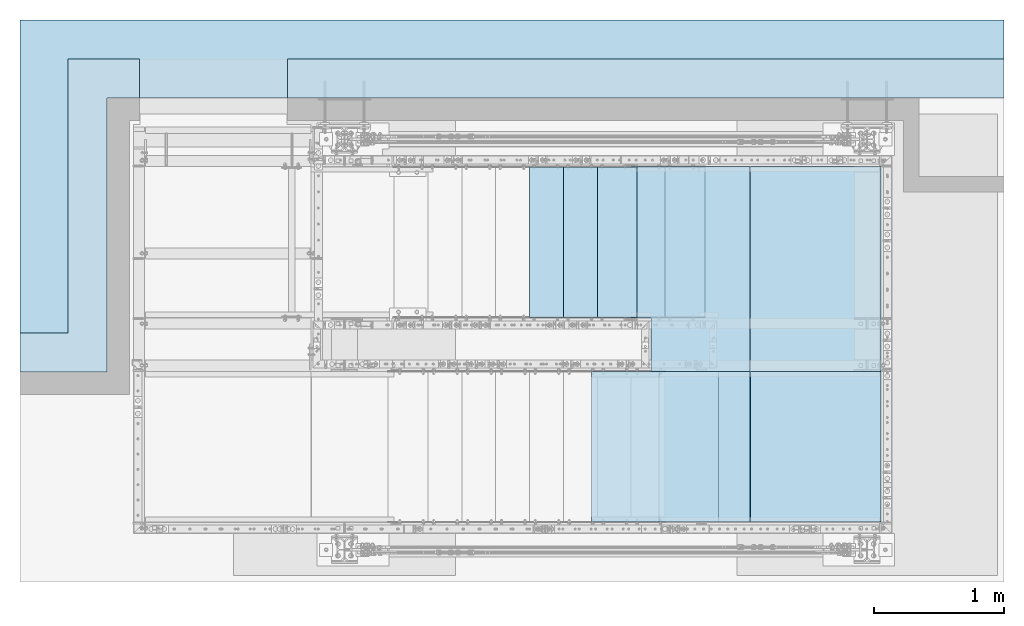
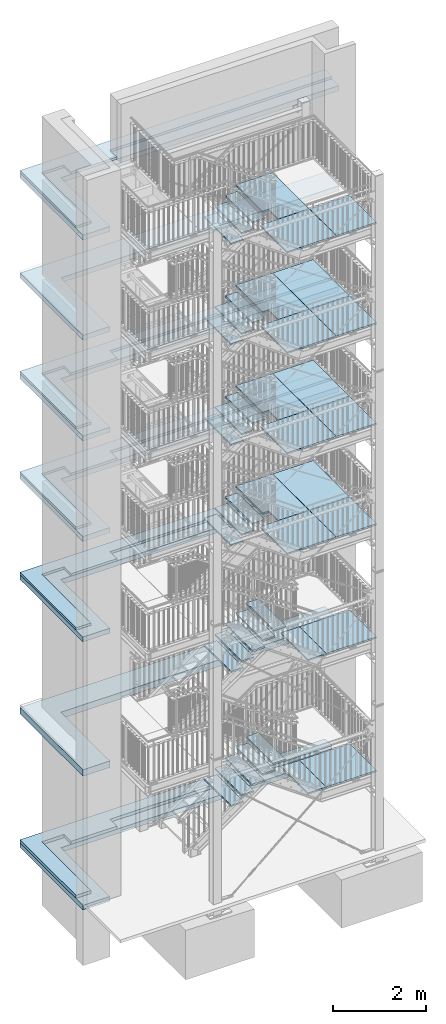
# One storey, part 146 of 831: 41 plates, 12 slabs, 12 openings.
"""IFC2X3 building model written with IfcOpenShell, lengths in millimetres."""

from ifc_helpers import new_model, entity, si_unit, converted_unit, frame, origin, origin_with_axes, place, context, project, spatial, polyline, outline, extrude, material, layer, layer_set, element, save


model = new_model("IFC2X3")

# Units and contexts
model_context = context("Model", 3, precision=1e-09, world=origin_with_axes())
ifc_project = project(units=[si_unit("LENGTHUNIT", "METRE", prefix="MILLI"), si_unit("AREAUNIT", "SQUARE_METRE"), si_unit("VOLUMEUNIT", "CUBIC_METRE"), converted_unit("PLANEANGLEUNIT", "DEGREE", entity("IfcPlaneAngleMeasure", 0.01745329), si_unit("PLANEANGLEUNIT", "RADIAN"), dimensions=[0, 0, 0, 0, 0, 0, 0])], contexts=[model_context])

# Site, building, storey
site_placement = place(None, origin_with_axes())
site = spatial("IfcSite", under=ifc_project, at=site_placement, Name="Site", CompositionType="ELEMENT")
building_placement = place(site_placement, origin_with_axes())
building = spatial("IfcBuilding", under=site, at=building_placement, Name="Struktur 1", CompositionType="ELEMENT")
storey_placement = place(building_placement, origin_with_axes())
storey = spatial("IfcBuildingStorey", under=building, at=storey_placement, Name="Default Storey", CompositionType="ELEMENT", Elevation=0.0)

# Plates
ifc_material_1 = material(Name="S235JR")
ifc_layer_1 = layer(ifc_material_1, 40.0)
ifc_layer_set_1 = layer_set([ifc_layer_1], Name="S235JR")
plate_1_placement = place(None, frame((7271.713402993, 5734.736971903, 2221.0526312), z_axis=(0.0, 0.0, -1.0), x_axis=(1.0, 0.0, 0.0)))
element("IfcPlate", 1, at=plate_1_placement, inside=storey, material=ifc_layer_set_1, Name="BottomCoverGrate", ObjectType="BottomCoverGrate", context=model_context, shape_type="SweptSolid", body=[
    extrude(outline(polyline([(453.001, 0.0), (453.001, 1156.0), (0.0, 1156.0), (0.0, 0.0), (453.001, 0.0)])), origin_with_axes(), (0.0, 0.0, 1.0), 40.0),
])
plate_2_placement = place(None, frame((7271.713402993, 5734.736971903, 2221.0526312), z_axis=(0.0, 0.0, -1.0), x_axis=(1.0, 0.0, 0.0)))
element("IfcPlate", 2, at=plate_2_placement, inside=storey, material=ifc_layer_set_1, Name="BottomCoverGrate", ObjectType="BottomCoverGrate", context=model_context, shape_type="SweptSolid", body=[
    extrude(outline(polyline([(455.001, 0.0), (1700.0, 0.0), (1700.0, 1156.0), (455.001, 1156.0), (455.001, 0.0)])), origin_with_axes(), (0.0, 0.0, 1.0), 40.0),
])
plate_3_placement = place(None, frame((7271.713402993, 5734.736971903, 5714.8947367), z_axis=(0.0, 0.0, -1.0), x_axis=(1.0, 0.0, 0.0)))
element("IfcPlate", 3, at=plate_3_placement, inside=storey, material=ifc_layer_set_1, Name="BottomCoverGrate", ObjectType="BottomCoverGrate", context=model_context, shape_type="SweptSolid", body=[
    extrude(outline(polyline([(453.0, 0.0), (453.0, 1156.0), (0.0, 1156.0), (0.0, 0.0), (453.0, 0.0)])), origin_with_axes(), (0.0, 0.0, 1.0), 40.0),
])
plate_4_placement = place(None, frame((7271.713402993, 5734.736971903, 5714.8947367), z_axis=(0.0, 0.0, -1.0), x_axis=(1.0, 0.0, 0.0)))
element("IfcPlate", 4, at=plate_4_placement, inside=storey, material=ifc_layer_set_1, Name="BottomCoverGrate", ObjectType="BottomCoverGrate", context=model_context, shape_type="SweptSolid", body=[
    extrude(outline(polyline([(455.0, 0.0), (1700.0, 0.0), (1700.0, 1156.0), (455.0, 1156.0), (455.0, 0.0)])), origin_with_axes(), (0.0, 0.0, 1.0), 40.0),
])
plate_5_placement = place(None, frame((7056.713402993, 6146.736971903, 8636.0), z_axis=(0.0, 0.0, 1.0), x_axis=(1.0, 0.0, 0.0)))
element("IfcPlate", 5, at=plate_5_placement, inside=storey, material=ifc_layer_set_1, Name="TopCoverGrate", ObjectType="TopCoverGrate", context=model_context, shape_type="SweptSolid", body=[
    extrude(outline(polyline([(915.0, 1160.0), (915.0, -410.0), (1915.0, -410.0), (1915.0, 1160.0), (915.0, 1160.0)])), origin_with_axes(), (0.0, 0.0, 1.0), 40.0),
])
plate_6_placement = place(None, frame((7056.713402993, 6146.736971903, 8636.0), z_axis=(0.0, 0.0, 1.0), x_axis=(1.0, 0.0, 0.0)))
element("IfcPlate", 6, at=plate_6_placement, inside=storey, material=ifc_layer_set_1, Name="TopCoverGrate", ObjectType="TopCoverGrate", context=model_context, shape_type="SweptSolid", body=[
    extrude(outline(polyline([(913.0, 1160.0), (0.0, 1160.0), (0.0, 0.001), (150.001, 0.001), (150.001, -410.0), (913.0, -410.0), (913.0, 1160.0)])), origin_with_axes(), (0.0, 0.0, 1.0), 40.0),
])
plate_7_placement = place(None, frame((6751.713402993, 5734.736971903, 8676.0), z_axis=(0.0, 0.0, -1.0), x_axis=(1.0, 0.0, 0.0)))
element("IfcPlate", 7, at=plate_7_placement, inside=storey, material=ifc_layer_set_1, Name="BottomCoverGrate", ObjectType="BottomCoverGrate", context=model_context, shape_type="SweptSolid", body=[
    extrude(outline(polyline([(1218.0, 0.0), (1218.0, 1156.0), (0.0, 1156.0), (0.0, 0.0), (1218.0, 0.0)])), origin_with_axes(), (0.0, 0.0, 1.0), 40.0),
])
plate_8_placement = place(None, frame((6751.713402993, 5734.736971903, 8676.0), z_axis=(0.0, 0.0, -1.0), x_axis=(1.0, 0.0, 0.0)))
element("IfcPlate", 8, at=plate_8_placement, inside=storey, material=ifc_layer_set_1, Name="BottomCoverGrate", ObjectType="BottomCoverGrate", context=model_context, shape_type="SweptSolid", body=[
    extrude(outline(polyline([(1220.0, 0.0), (2220.0, 0.0), (2220.0, 1156.0), (1220.0, 1156.0), (1220.0, 0.0)])), origin_with_axes(), (0.0, 0.0, 1.0), 40.0),
])
plate_9_placement = place(None, frame((6751.713402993, 5734.736971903, 11305.5000003), z_axis=(0.0, 0.0, -1.0), x_axis=(1.0, 0.0, 0.0)))
element("IfcPlate", 9, at=plate_9_placement, inside=storey, material=ifc_layer_set_1, Name="BottomCoverGrate", ObjectType="BottomCoverGrate", context=model_context, shape_type="SweptSolid", body=[
    extrude(outline(polyline([(1218.0, 0.0), (1218.0, 1156.0), (0.0, 1156.0), (0.0, 0.0), (1218.0, 0.0)])), origin_with_axes(), (0.0, 0.0, 1.0), 40.0),
])
plate_10_placement = place(None, frame((6751.713402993, 5734.736971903, 11305.5000003), z_axis=(0.0, 0.0, -1.0), x_axis=(1.0, 0.0, 0.0)))
element("IfcPlate", 10, at=plate_10_placement, inside=storey, material=ifc_layer_set_1, Name="BottomCoverGrate", ObjectType="BottomCoverGrate", context=model_context, shape_type="SweptSolid", body=[
    extrude(outline(polyline([(1220.0, 0.0), (2220.0, 0.0), (2220.0, 1156.0), (1220.0, 1156.0), (1220.0, 0.0)])), origin_with_axes(), (0.0, 0.0, 1.0), 40.0),
])
plate_11_placement = place(None, frame((7056.713402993, 6146.736971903, 11265.5000003), z_axis=(0.0, 0.0, 1.0), x_axis=(1.0, 0.0, 0.0)))
element("IfcPlate", 11, at=plate_11_placement, inside=storey, material=ifc_layer_set_1, Name="TopCoverGrate", ObjectType="TopCoverGrate", context=model_context, shape_type="SweptSolid", body=[
    extrude(outline(polyline([(915.0, 1160.0), (915.0, -410.0), (1915.0, -410.0), (1915.0, 1160.0), (915.0, 1160.0)])), origin_with_axes(), (0.0, 0.0, 1.0), 40.0),
])
plate_12_placement = place(None, frame((7056.713402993, 6146.736971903, 11265.5000003), z_axis=(0.0, 0.0, 1.0), x_axis=(1.0, 0.0, 0.0)))
element("IfcPlate", 12, at=plate_12_placement, inside=storey, material=ifc_layer_set_1, Name="TopCoverGrate", ObjectType="TopCoverGrate", context=model_context, shape_type="SweptSolid", body=[
    extrude(outline(polyline([(913.0, 1160.0), (0.0, 1160.0), (0.0, 0.001), (150.001, 0.001), (150.001, -410.0), (913.0, -410.0), (913.0, 1160.0)])), origin_with_axes(), (0.0, 0.0, 1.0), 40.0),
])
plate_13_placement = place(None, frame((6751.713402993, 5734.736971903, 13936.5000001), z_axis=(0.0, 0.0, -1.0), x_axis=(1.0, 0.0, 0.0)))
element("IfcPlate", 13, at=plate_13_placement, inside=storey, material=ifc_layer_set_1, Name="BottomCoverGrate", ObjectType="BottomCoverGrate", context=model_context, shape_type="SweptSolid", body=[
    extrude(outline(polyline([(1218.0, 0.0), (1218.0, 1156.0), (0.0, 1156.0), (0.0, 0.0), (1218.0, 0.0)])), origin_with_axes(), (0.0, 0.0, 1.0), 40.0),
])
plate_14_placement = place(None, frame((6751.713402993, 5734.736971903, 13936.5000001), z_axis=(0.0, 0.0, -1.0), x_axis=(1.0, 0.0, 0.0)))
element("IfcPlate", 14, at=plate_14_placement, inside=storey, material=ifc_layer_set_1, Name="BottomCoverGrate", ObjectType="BottomCoverGrate", context=model_context, shape_type="SweptSolid", body=[
    extrude(outline(polyline([(1220.0, 0.0), (2220.0, 0.0), (2220.0, 1156.0), (1220.0, 1156.0), (1220.0, 0.0)])), origin_with_axes(), (0.0, 0.0, 1.0), 40.0),
])
plate_15_placement = place(None, frame((7056.713402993, 6146.736971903, 13896.5000001), z_axis=(0.0, 0.0, 1.0), x_axis=(1.0, 0.0, 0.0)))
element("IfcPlate", 15, at=plate_15_placement, inside=storey, material=ifc_layer_set_1, Name="TopCoverGrate", ObjectType="TopCoverGrate", context=model_context, shape_type="SweptSolid", body=[
    extrude(outline(polyline([(915.0, 1160.0), (915.0, -410.0), (1915.0, -410.0), (1915.0, 1160.0), (915.0, 1160.0)])), origin_with_axes(), (0.0, 0.0, 1.0), 40.0),
])
plate_16_placement = place(None, frame((7056.713402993, 6146.736971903, 13896.5000001), z_axis=(0.0, 0.0, 1.0), x_axis=(1.0, 0.0, 0.0)))
element("IfcPlate", 16, at=plate_16_placement, inside=storey, material=ifc_layer_set_1, Name="TopCoverGrate", ObjectType="TopCoverGrate", context=model_context, shape_type="SweptSolid", body=[
    extrude(outline(polyline([(913.0, 1160.0), (0.0, 1160.0), (0.0, 0.001), (150.001, 0.001), (150.001, -410.0), (913.0, -410.0), (913.0, 1160.0)])), origin_with_axes(), (0.0, 0.0, 1.0), 40.0),
])
plate_17_placement = place(None, frame((6751.713402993, 5734.736971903, 16564.0000003), z_axis=(0.0, 0.0, -1.0), x_axis=(1.0, 0.0, 0.0)))
element("IfcPlate", 17, at=plate_17_placement, inside=storey, material=ifc_layer_set_1, Name="BottomCoverGrate", ObjectType="BottomCoverGrate", context=model_context, shape_type="SweptSolid", body=[
    extrude(outline(polyline([(1218.0, 0.0), (1218.0, 1156.0), (0.0, 1156.0), (0.0, 0.0), (1218.0, 0.0)])), origin_with_axes(), (0.0, 0.0, 1.0), 40.0),
])
plate_18_placement = place(None, frame((6751.713402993, 5734.736971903, 16564.0000003), z_axis=(0.0, 0.0, -1.0), x_axis=(1.0, 0.0, 0.0)))
element("IfcPlate", 18, at=plate_18_placement, inside=storey, material=ifc_layer_set_1, Name="BottomCoverGrate", ObjectType="BottomCoverGrate", context=model_context, shape_type="SweptSolid", body=[
    extrude(outline(polyline([(1220.0, 0.0), (2220.0, 0.0), (2220.0, 1156.0), (1220.0, 1156.0), (1220.0, 0.0)])), origin_with_axes(), (0.0, 0.0, 1.0), 40.0),
])
plate_19_placement = place(None, frame((7056.713402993, 6146.736971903, 16524.0000003), z_axis=(0.0, 0.0, 1.0), x_axis=(1.0, 0.0, 0.0)))
element("IfcPlate", 19, at=plate_19_placement, inside=storey, material=ifc_layer_set_1, Name="TopCoverGrate", ObjectType="TopCoverGrate", context=model_context, shape_type="SweptSolid", body=[
    extrude(outline(polyline([(913.0, 1160.0), (0.0, 1160.0), (0.0, 0.001), (150.001, 0.001), (150.001, -410.0), (913.0, -410.0), (913.0, 1160.0)])), origin_with_axes(), (0.0, 0.0, 1.0), 40.0),
])
plate_20_placement = place(None, frame((6429.213402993, 6726.736971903, 10702.571429), z_axis=(0.0, 0.0, 1.0), x_axis=(0.0, 1.0, 0.0)))
element("IfcPlate", 20, at=plate_20_placement, inside=storey, material=ifc_layer_set_1, Name="Grate_Step#22", ObjectType="Grate_Step#22", context=model_context, shape_type="SweptSolid", body=[
    extrude(outline(polyline([(-577.0, -152.5), (577.0, -152.5), (577.0, 152.5), (-577.0, 152.5), (-577.0, -152.5)])), origin_with_axes(), (0.0, 0.0, 1.0), 40.0),
])
plate_21_placement = place(None, frame((6689.213402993, 6726.736971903, 10890.2142861), z_axis=(0.0, 0.0, 1.0), x_axis=(0.0, 1.0, 0.0)))
element("IfcPlate", 21, at=plate_21_placement, inside=storey, material=ifc_layer_set_1, Name="Grate_Step#29", ObjectType="Grate_Step#29", context=model_context, shape_type="SweptSolid", body=[
    extrude(outline(polyline([(-577.0, -152.5), (577.0, -152.5), (577.0, 152.5), (-577.0, 152.5), (-577.0, -152.5)])), origin_with_axes(), (0.0, 0.0, 1.0), 40.0),
])
plate_22_placement = place(None, frame((6949.213402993, 6726.736971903, 11077.8571432), z_axis=(0.0, 0.0, 1.0), x_axis=(0.0, 1.0, 0.0)))
element("IfcPlate", 22, at=plate_22_placement, inside=storey, material=ifc_layer_set_1, Name="Grate_Step#36", ObjectType="Grate_Step#36", context=model_context, shape_type="SweptSolid", body=[
    extrude(outline(polyline([(-577.0, -152.5), (577.0, -152.5), (577.0, 152.5), (-577.0, 152.5), (-577.0, -152.5)])), origin_with_axes(), (0.0, 0.0, 1.0), 40.0),
])
plate_23_placement = place(None, frame((6429.213402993, 6726.736971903, 8072.0), z_axis=(0.0, 0.0, 1.0), x_axis=(0.0, 1.0, 0.0)))
element("IfcPlate", 23, at=plate_23_placement, inside=storey, material=ifc_layer_set_1, Name="Grate_Step#22", ObjectType="Grate_Step#22", context=model_context, shape_type="SweptSolid", body=[
    extrude(outline(polyline([(-577.0, -152.5), (577.0, -152.5), (577.0, 152.5), (-577.0, 152.5), (-577.0, -152.5)])), origin_with_axes(), (0.0, 0.0, 1.0), 40.0),
])
plate_24_placement = place(None, frame((6689.213402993, 6726.736971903, 8260.0), z_axis=(0.0, 0.0, 1.0), x_axis=(0.0, 1.0, 0.0)))
element("IfcPlate", 24, at=plate_24_placement, inside=storey, material=ifc_layer_set_1, Name="Grate_Step#29", ObjectType="Grate_Step#29", context=model_context, shape_type="SweptSolid", body=[
    extrude(outline(polyline([(-577.0, -152.5), (577.0, -152.5), (577.0, 152.5), (-577.0, 152.5), (-577.0, -152.5)])), origin_with_axes(), (0.0, 0.0, 1.0), 40.0),
])
plate_25_placement = place(None, frame((6949.213402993, 6726.736971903, 8448.0), z_axis=(0.0, 0.0, 1.0), x_axis=(0.0, 1.0, 0.0)))
element("IfcPlate", 25, at=plate_25_placement, inside=storey, material=ifc_layer_set_1, Name="Grate_Step#36", ObjectType="Grate_Step#36", context=model_context, shape_type="SweptSolid", body=[
    extrude(outline(polyline([(-577.0, -152.5), (577.0, -152.5), (577.0, 152.5), (-577.0, 152.5), (-577.0, -152.5)])), origin_with_axes(), (0.0, 0.0, 1.0), 40.0),
])
plate_26_placement = place(None, frame((6429.213402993, 6726.736971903, 13331.857143), z_axis=(0.0, 0.0, 1.0), x_axis=(0.0, 1.0, 0.0)))
element("IfcPlate", 26, at=plate_26_placement, inside=storey, material=ifc_layer_set_1, Name="Grate_Step#22", ObjectType="Grate_Step#22", context=model_context, shape_type="SweptSolid", body=[
    extrude(outline(polyline([(-577.0, -152.5), (577.0, -152.5), (577.0, 152.5), (-577.0, 152.5), (-577.0, -152.5)])), origin_with_axes(), (0.0, 0.0, 1.0), 40.0),
])
plate_27_placement = place(None, frame((6689.213402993, 6726.736971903, 13520.0714287), z_axis=(0.0, 0.0, 1.0), x_axis=(0.0, 1.0, 0.0)))
element("IfcPlate", 27, at=plate_27_placement, inside=storey, material=ifc_layer_set_1, Name="Grate_Step#29", ObjectType="Grate_Step#29", context=model_context, shape_type="SweptSolid", body=[
    extrude(outline(polyline([(-577.0, -152.5), (577.0, -152.5), (577.0, 152.5), (-577.0, 152.5), (-577.0, -152.5)])), origin_with_axes(), (0.0, 0.0, 1.0), 40.0),
])
plate_28_placement = place(None, frame((6949.213402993, 6726.736971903, 13708.2857144), z_axis=(0.0, 0.0, 1.0), x_axis=(0.0, 1.0, 0.0)))
element("IfcPlate", 28, at=plate_28_placement, inside=storey, material=ifc_layer_set_1, Name="Grate_Step#36", ObjectType="Grate_Step#36", context=model_context, shape_type="SweptSolid", body=[
    extrude(outline(polyline([(-577.0, -152.5), (577.0, -152.5), (577.0, 152.5), (-577.0, 152.5), (-577.0, -152.5)])), origin_with_axes(), (0.0, 0.0, 1.0), 40.0),
])
plate_29_placement = place(None, frame((6429.213402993, 6726.736971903, 15962.571429), z_axis=(0.0, 0.0, 1.0), x_axis=(0.0, 1.0, 0.0)))
element("IfcPlate", 29, at=plate_29_placement, inside=storey, material=ifc_layer_set_1, Name="Grate_Step#22", ObjectType="Grate_Step#22", context=model_context, shape_type="SweptSolid", body=[
    extrude(outline(polyline([(-577.0, -152.5), (577.0, -152.5), (577.0, 152.5), (-577.0, 152.5), (-577.0, -152.5)])), origin_with_axes(), (0.0, 0.0, 1.0), 40.0),
])
plate_30_placement = place(None, frame((6689.213402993, 6726.736971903, 16149.7142861), z_axis=(0.0, 0.0, 1.0), x_axis=(0.0, 1.0, 0.0)))
element("IfcPlate", 30, at=plate_30_placement, inside=storey, material=ifc_layer_set_1, Name="Grate_Step#29", ObjectType="Grate_Step#29", context=model_context, shape_type="SweptSolid", body=[
    extrude(outline(polyline([(-577.0, -152.5), (577.0, -152.5), (577.0, 152.5), (-577.0, 152.5), (-577.0, -152.5)])), origin_with_axes(), (0.0, 0.0, 1.0), 40.0),
])
plate_31_placement = place(None, frame((6949.213402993, 6726.736971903, 16336.8571432), z_axis=(0.0, 0.0, 1.0), x_axis=(0.0, 1.0, 0.0)))
element("IfcPlate", 31, at=plate_31_placement, inside=storey, material=ifc_layer_set_1, Name="Grate_Step#36", ObjectType="Grate_Step#36", context=model_context, shape_type="SweptSolid", body=[
    extrude(outline(polyline([(-577.0, -152.5), (577.0, -152.5), (577.0, 152.5), (-577.0, 152.5), (-577.0, -152.5)])), origin_with_axes(), (0.0, 0.0, 1.0), 40.0),
])
plate_32_placement = place(None, frame((6429.213402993, 6726.736971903, 1255.5263152), z_axis=(0.0, 0.0, 1.0), x_axis=(0.0, 1.0, 0.0)))
element("IfcPlate", 32, at=plate_32_placement, inside=storey, material=ifc_layer_set_1, Name="Grate_Step#29", ObjectType="Grate_Step#29", context=model_context, shape_type="SweptSolid", body=[
    extrude(outline(polyline([(-577.0, -152.5), (577.0, -152.5), (577.0, 152.5), (-577.0, 152.5), (-577.0, -152.5)])), origin_with_axes(), (0.0, 0.0, 1.0), 40.0),
])
plate_33_placement = place(None, frame((6949.213402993, 6726.736971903, 1625.7368416), z_axis=(0.0, 0.0, 1.0), x_axis=(0.0, 1.0, 0.0)))
element("IfcPlate", 33, at=plate_33_placement, inside=storey, material=ifc_layer_set_1, Name="Grate_Step#43", ObjectType="Grate_Step#43", context=model_context, shape_type="SweptSolid", body=[
    extrude(outline(polyline([(-577.0, -152.5), (577.0, -152.5), (577.0, 152.5), (-577.0, 152.5), (-577.0, -152.5)])), origin_with_axes(), (0.0, 0.0, 1.0), 40.0),
])
plate_34_placement = place(None, frame((6689.213402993, 6726.736971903, 4943.7368419), z_axis=(0.0, 0.0, 1.0), x_axis=(0.0, 1.0, 0.0)))
element("IfcPlate", 34, at=plate_34_placement, inside=storey, material=ifc_layer_set_1, Name="Grate_Step#36", ObjectType="Grate_Step#36", context=model_context, shape_type="SweptSolid", body=[
    extrude(outline(polyline([(-577.0, -152.5), (577.0, -152.5), (577.0, 152.5), (-577.0, 152.5), (-577.0, -152.5)])), origin_with_axes(), (0.0, 0.0, 1.0), 40.0),
])
plate_35_placement = place(None, frame((7469.213402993, 6726.736971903, 1995.947368), z_axis=(0.0, 0.0, 1.0), x_axis=(0.0, 1.0, 0.0)))
element("IfcPlate", 35, at=plate_35_placement, inside=storey, material=ifc_layer_set_1, Name="Grate_Step#57", ObjectType="Grate_Step#57", context=model_context, shape_type="SweptSolid", body=[
    extrude(outline(polyline([(-577.0, -152.5), (577.0, -152.5), (577.0, 152.5), (-577.0, 152.5), (-577.0, -152.5)])), origin_with_axes(), (0.0, 0.0, 1.0), 40.0),
])
plate_36_placement = place(None, frame((7209.213402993, 6726.736971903, 5309.3157893), z_axis=(0.0, 0.0, 1.0), x_axis=(0.0, 1.0, 0.0)))
element("IfcPlate", 36, at=plate_36_placement, inside=storey, material=ifc_layer_set_1, Name="Grate_Step#50", ObjectType="Grate_Step#50", context=model_context, shape_type="SweptSolid", body=[
    extrude(outline(polyline([(-577.0, -152.5), (577.0, -152.5), (577.0, 152.5), (-577.0, 152.5), (-577.0, -152.5)])), origin_with_axes(), (0.0, 0.0, 1.0), 40.0),
])
plate_37_placement = place(None, frame((6429.213402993, 6726.736971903, 4760.9473682), z_axis=(0.0, 0.0, 1.0), x_axis=(0.0, 1.0, 0.0)))
element("IfcPlate", 37, at=plate_37_placement, inside=storey, material=ifc_layer_set_1, Name="Grate_Step#29", ObjectType="Grate_Step#29", context=model_context, shape_type="SweptSolid", body=[
    extrude(outline(polyline([(-577.0, -152.5), (577.0, -152.5), (577.0, 152.5), (-577.0, 152.5), (-577.0, -152.5)])), origin_with_axes(), (0.0, 0.0, 1.0), 40.0),
])
plate_38_placement = place(None, frame((6949.213402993, 6726.736971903, 5126.5263156), z_axis=(0.0, 0.0, 1.0), x_axis=(0.0, 1.0, 0.0)))
element("IfcPlate", 38, at=plate_38_placement, inside=storey, material=ifc_layer_set_1, Name="Grate_Step#43", ObjectType="Grate_Step#43", context=model_context, shape_type="SweptSolid", body=[
    extrude(outline(polyline([(-577.0, -152.5), (577.0, -152.5), (577.0, 152.5), (-577.0, 152.5), (-577.0, -152.5)])), origin_with_axes(), (0.0, 0.0, 1.0), 40.0),
])
plate_39_placement = place(None, frame((7469.213402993, 6726.736971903, 5492.105263), z_axis=(0.0, 0.0, 1.0), x_axis=(0.0, 1.0, 0.0)))
element("IfcPlate", 39, at=plate_39_placement, inside=storey, material=ifc_layer_set_1, Name="Grate_Step#57", ObjectType="Grate_Step#57", context=model_context, shape_type="SweptSolid", body=[
    extrude(outline(polyline([(-577.0, -152.5), (577.0, -152.5), (577.0, 152.5), (-577.0, 152.5), (-577.0, -152.5)])), origin_with_axes(), (0.0, 0.0, 1.0), 40.0),
])
plate_40_placement = place(None, frame((6689.213402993, 6726.736971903, 1440.6315784), z_axis=(0.0, 0.0, 1.0), x_axis=(0.0, 1.0, 0.0)))
element("IfcPlate", 40, at=plate_40_placement, inside=storey, material=ifc_layer_set_1, Name="Grate_Step#36", ObjectType="Grate_Step#36", context=model_context, shape_type="SweptSolid", body=[
    extrude(outline(polyline([(-577.0, -152.5), (577.0, -152.5), (577.0, 152.5), (-577.0, 152.5), (-577.0, -152.5)])), origin_with_axes(), (0.0, 0.0, 1.0), 40.0),
])
plate_41_placement = place(None, frame((7209.213402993, 6726.736971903, 1810.8421048), z_axis=(0.0, 0.0, 1.0), x_axis=(0.0, 1.0, 0.0)))
element("IfcPlate", 41, at=plate_41_placement, inside=storey, material=ifc_layer_set_1, Name="Grate_Step#50", ObjectType="Grate_Step#50", context=model_context, shape_type="SweptSolid", body=[
    extrude(outline(polyline([(-577.0, -152.5), (577.0, -152.5), (577.0, 152.5), (-577.0, 152.5), (-577.0, -152.5)])), origin_with_axes(), (0.0, 0.0, 1.0), 40.0),
])

# Slab, opening
ifc_material_2 = material(Name="C25/30")
ifc_layer_2 = layer(ifc_material_2, 80.0)
ifc_layer_set_2 = layer_set([ifc_layer_2], Name="C25/30")
slab_1_placement = place(None, frame((6142.06017303, 7231.736471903, 300.0), z_axis=(0.0, 0.0, 1.0), x_axis=(1.0, 0.0, 0.0)))
slab_1 = element("IfcSlab", 42, at=slab_1_placement, inside=storey, material=ifc_layer_set_2, Name="-", ObjectType="-", context=model_context, shape_type="SweptSolid", body=[
    extrude(outline(polyline([(-3774.653229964, -1200.0005), (3774.653229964, -1200.0005), (3774.653229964, 1200.0005), (-3774.653229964, 1200.0005), (-3774.653229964, -1200.0005)])), origin_with_axes(), (0.0, 0.0, 1.0), 80.0),
])
opening_1_placement = place(slab_1_placement, frame((0.0, 0.0, -0.1), z_axis=(0.0, 0.0, 1.0), x_axis=(1.0, 0.0, 0.0)))
element("IfcOpeningElement", 43, at=opening_1_placement, cuts=slab_1, ObjectType="Opening", context=model_context, shape_type="SweptSolid", body=[
    extrude(outline(polyline([(4245.822175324, -1514.534847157), (4245.822175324, 900.0015), (-1722.348770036, 900.0015), (-1722.348770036, 600.0025), (-2857.346770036, 600.0025), (-2857.346770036, 900.0015), (-3407.346770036, 900.0015), (-3407.346770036, -1707.828193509), (4245.822175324, -1514.534847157)])), origin(), (0.0, 0.0, 1.0), 80.2),
])

ifc_layer_3 = layer(ifc_material_2, 130.0)
ifc_layer_set_3 = layer_set([ifc_layer_3], Name="C25/30")
slab_2_placement = place(None, frame((6142.06017303, 7081.736471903, 7190.0), z_axis=(0.0, 0.0, 1.0), x_axis=(1.0, 0.0, 0.0)))
slab_2 = element("IfcSlab", 44, at=slab_2_placement, inside=storey, material=ifc_layer_set_3, Name="-", ObjectType="-", context=model_context, shape_type="SweptSolid", body=[
    extrude(outline(polyline([(-3774.653229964, -1350.0005), (3774.653229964, -1350.0005), (3774.653229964, 1350.0005), (-3774.653229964, 1350.0005), (-3774.653229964, -1350.0005)])), origin_with_axes(), (0.0, 0.0, 1.0), 130.0),
])
opening_2_placement = place(slab_2_placement, frame((0.0, 0.0, -0.1), z_axis=(0.0, 0.0, 1.0), x_axis=(1.0, 0.0, 0.0)))
element("IfcOpeningElement", 45, at=opening_2_placement, cuts=slab_2, ObjectType="Opening", context=model_context, shape_type="SweptSolid", body=[
    extrude(outline(polyline([(-3107.347770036, -1859.56610814), (4389.557341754, -1859.56610814), (4389.557341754, 750.0025), (-3107.347770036, 750.0025), (-3107.347770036, -1859.56610814)])), origin(), (0.0, 0.0, 1.0), 130.2),
])

slab_3_placement = place(None, frame((6142.06017303, 7081.736471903, 9822.0), z_axis=(0.0, 0.0, 1.0), x_axis=(1.0, 0.0, 0.0)))
slab_3 = element("IfcSlab", 46, at=slab_3_placement, inside=storey, material=ifc_layer_set_3, Name="-", ObjectType="-", context=model_context, shape_type="SweptSolid", body=[
    extrude(outline(polyline([(-3774.653229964, -1350.0005), (3774.653229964, -1350.0005), (3774.653229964, 1350.0005), (-3774.653229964, 1350.0005), (-3774.653229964, -1350.0005)])), origin_with_axes(), (0.0, 0.0, 1.0), 130.0),
])
opening_3_placement = place(slab_3_placement, frame((0.0, 0.0, -0.1), z_axis=(0.0, 0.0, 1.0), x_axis=(1.0, 0.0, 0.0)))
element("IfcOpeningElement", 47, at=opening_3_placement, cuts=slab_3, ObjectType="Opening", context=model_context, shape_type="SweptSolid", body=[
    extrude(outline(polyline([(-3107.347770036, -1859.56610814), (4389.557341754, -1859.56610814), (4389.557341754, 750.0025), (-3107.347770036, 750.0025), (-3107.347770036, -1859.56610814)])), origin(), (0.0, 0.0, 1.0), 130.2),
])

slab_4_placement = place(None, frame((6142.06017303, 7081.736471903, 12449.0), z_axis=(0.0, 0.0, 1.0), x_axis=(1.0, 0.0, 0.0)))
slab_4 = element("IfcSlab", 48, at=slab_4_placement, inside=storey, material=ifc_layer_set_3, Name="-", ObjectType="-", context=model_context, shape_type="SweptSolid", body=[
    extrude(outline(polyline([(-3774.653229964, -1350.0005), (3774.653229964, -1350.0005), (3774.653229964, 1350.0005), (-3774.653229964, 1350.0005), (-3774.653229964, -1350.0005)])), origin_with_axes(), (0.0, 0.0, 1.0), 130.0),
])
opening_4_placement = place(slab_4_placement, frame((0.0, 0.0, -0.1), z_axis=(0.0, 0.0, 1.0), x_axis=(1.0, 0.0, 0.0)))
element("IfcOpeningElement", 49, at=opening_4_placement, cuts=slab_4, ObjectType="Opening", context=model_context, shape_type="SweptSolid", body=[
    extrude(outline(polyline([(-3107.347770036, -1859.56610814), (4389.557341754, -1859.56610814), (4389.557341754, 750.0025), (-3107.347770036, 750.0025), (-3107.347770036, -1859.56610814)])), origin(), (0.0, 0.0, 1.0), 130.2),
])

slab_5_placement = place(None, frame((6142.06017303, 7081.736471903, 15084.0), z_axis=(0.0, 0.0, 1.0), x_axis=(1.0, 0.0, 0.0)))
slab_5 = element("IfcSlab", 50, at=slab_5_placement, inside=storey, material=ifc_layer_set_3, Name="-", ObjectType="-", context=model_context, shape_type="SweptSolid", body=[
    extrude(outline(polyline([(-3774.653229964, -1350.0005), (3774.653229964, -1350.0005), (3774.653229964, 1350.0005), (-3774.653229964, 1350.0005), (-3774.653229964, -1350.0005)])), origin_with_axes(), (0.0, 0.0, 1.0), 130.0),
])
opening_5_placement = place(slab_5_placement, frame((0.0, 0.0, -0.1), z_axis=(0.0, 0.0, 1.0), x_axis=(1.0, 0.0, 0.0)))
element("IfcOpeningElement", 51, at=opening_5_placement, cuts=slab_5, ObjectType="Opening", context=model_context, shape_type="SweptSolid", body=[
    extrude(outline(polyline([(-3107.347770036, -1859.56610814), (4389.557341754, -1859.56610814), (4389.557341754, 750.0025), (-3107.347770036, 750.0025), (-3107.347770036, -1859.56610814)])), origin(), (0.0, 0.0, 1.0), 130.2),
])

slab_6_placement = place(None, frame((6142.06017303, 7081.736471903, 17704.0), z_axis=(0.0, 0.0, 1.0), x_axis=(1.0, 0.0, 0.0)))
slab_6 = element("IfcSlab", 52, at=slab_6_placement, inside=storey, material=ifc_layer_set_3, Name="-", ObjectType="-", context=model_context, shape_type="SweptSolid", body=[
    extrude(outline(polyline([(-3774.653229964, -1350.0005), (3774.653229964, -1350.0005), (3774.653229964, 1350.0005), (-3774.653229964, 1350.0005), (-3774.653229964, -1350.0005)])), origin_with_axes(), (0.0, 0.0, 1.0), 130.0),
])
opening_6_placement = place(slab_6_placement, frame((0.0, 0.0, -0.1), z_axis=(0.0, 0.0, 1.0), x_axis=(1.0, 0.0, 0.0)))
element("IfcOpeningElement", 53, at=opening_6_placement, cuts=slab_6, ObjectType="Opening", context=model_context, shape_type="SweptSolid", body=[
    extrude(outline(polyline([(-3107.347770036, -1859.56610814), (4389.557341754, -1859.56610814), (4389.557341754, 750.0025), (-3107.347770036, 750.0025), (-3107.347770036, -1859.56610814)])), origin(), (0.0, 0.0, 1.0), 130.2),
])

ifc_layer_4 = layer(ifc_material_2, 60.0)
ifc_layer_set_4 = layer_set([ifc_layer_4], Name="C25/30")
slab_7_placement = place(None, frame((6142.06017303, 7231.736471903, 17834.0), z_axis=(0.0, 0.0, 1.0), x_axis=(1.0, 0.0, 0.0)))
slab_7 = element("IfcSlab", 54, at=slab_7_placement, inside=storey, material=ifc_layer_set_4, Name="-", ObjectType="-", context=model_context, shape_type="SweptSolid", body=[
    extrude(outline(polyline([(-3774.653229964, -1200.0005), (3774.653229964, -1200.0005), (3774.653229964, 1200.0005), (-3774.653229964, 1200.0005), (-3774.653229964, -1200.0005)])), origin_with_axes(), (0.0, 0.0, 1.0), 60.0),
])
opening_7_placement = place(slab_7_placement, frame((0.0, 0.0, -0.1), z_axis=(0.0, 0.0, 1.0), x_axis=(1.0, 0.0, 0.0)))
element("IfcOpeningElement", 55, at=opening_7_placement, cuts=slab_7, ObjectType="Opening", context=model_context, shape_type="SweptSolid", body=[
    extrude(outline(polyline([(4245.822175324, -1514.534847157), (4245.822175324, 900.0015), (-1722.347770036, 900.0015), (-1722.347770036, 600.0025), (-2857.34677004, 600.0025), (-2857.34777004, 900.0015), (-3407.346770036, 900.0015), (-3407.346770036, -1707.828193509), (4245.822175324, -1514.534847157)])), origin(), (0.0, 0.0, 1.0), 60.2),
])

ifc_layer_5 = layer(ifc_material_2, 170.0)
ifc_layer_set_5 = layer_set([ifc_layer_5], Name="C25/30")
slab_8_placement = place(None, frame((6142.06017303, 7081.736471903, 3677.0), z_axis=(0.0, 0.0, 1.0), x_axis=(1.0, 0.0, 0.0)))
slab_8 = element("IfcSlab", 56, at=slab_8_placement, inside=storey, material=ifc_layer_set_5, Name="-", ObjectType="-", context=model_context, shape_type="SweptSolid", body=[
    extrude(outline(polyline([(-3774.653229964, -1350.0005), (3774.653229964, -1350.0005), (3774.653229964, 1350.0005), (-3774.653229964, 1350.0005), (-3774.653229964, -1350.0005)])), origin_with_axes(), (0.0, 0.0, 1.0), 170.0),
])
opening_8_placement = place(slab_8_placement, frame((0.0, 0.0, -0.1), z_axis=(0.0, 0.0, 1.0), x_axis=(1.0, 0.0, 0.0)))
element("IfcOpeningElement", 57, at=opening_8_placement, cuts=slab_8, ObjectType="Opening", context=model_context, shape_type="SweptSolid", body=[
    extrude(outline(polyline([(-3107.347770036, -1859.56610814), (4389.557341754, -1859.56610814), (4389.557341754, 750.0025), (-3107.347770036, 750.0025), (-3107.347770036, -1859.56610814)])), origin(), (0.0, 0.0, 1.0), 170.2),
])

ifc_layer_6 = layer(ifc_material_2, 120.0)
ifc_layer_set_6 = layer_set([ifc_layer_6], Name="C25/30")
slab_9_placement = place(None, frame((6142.06017303, 7081.736471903, 180.0), z_axis=(0.0, 0.0, 1.0), x_axis=(1.0, 0.0, 0.0)))
slab_9 = element("IfcSlab", 58, at=slab_9_placement, inside=storey, material=ifc_layer_set_6, Name="-", ObjectType="-", context=model_context, shape_type="SweptSolid", body=[
    extrude(outline(polyline([(-3774.653229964, -1350.0005), (3774.653229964, -1350.0005), (3774.653229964, 1350.0005), (-3774.653229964, 1350.0005), (-3774.653229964, -1350.0005)])), origin_with_axes(), (0.0, 0.0, 1.0), 120.0),
])
opening_9_placement = place(slab_9_placement, frame((0.0, 0.0, -0.1), z_axis=(0.0, 0.0, 1.0), x_axis=(1.0, 0.0, 0.0)))
element("IfcOpeningElement", 59, at=opening_9_placement, cuts=slab_9, ObjectType="Opening", context=model_context, shape_type="SweptSolid", body=[
    extrude(outline(polyline([(-3107.347770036, -1859.56610814), (4389.557341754, -1859.56610814), (4389.557341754, 750.0025), (-3107.347770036, 750.0025), (-3107.347770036, -1859.56610814)])), origin(), (0.0, 0.0, 1.0), 120.2),
])

slab_10_placement = place(None, frame((6142.06017303, 7231.736471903, 12579.0), z_axis=(0.0, 0.0, 1.0), x_axis=(1.0, 0.0, 0.0)))
slab_10 = element("IfcSlab", 60, at=slab_10_placement, inside=storey, material=ifc_layer_set_4, Name="-", ObjectType="-", context=model_context, shape_type="SweptSolid", body=[
    extrude(outline(polyline([(-3774.653229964, -1200.0005), (3774.653229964, -1200.0005), (3774.653229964, 1200.0005), (-3774.653229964, 1200.0005), (-3774.653229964, -1200.0005)])), origin_with_axes(), (0.0, 0.0, 1.0), 60.0),
])
opening_10_placement = place(slab_10_placement, frame((0.0, 0.0, -0.1), z_axis=(0.0, 0.0, 1.0), x_axis=(1.0, 0.0, 0.0)))
element("IfcOpeningElement", 61, at=opening_10_placement, cuts=slab_10, ObjectType="Opening", context=model_context, shape_type="SweptSolid", body=[
    extrude(outline(polyline([(4245.822175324, -1514.534847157), (4245.822175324, 900.0015), (-1722.351770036, 900.0015), (-1722.351770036, 600.0025), (-2857.344770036, 600.0025), (-2857.344770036, 900.0015), (-3407.346770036, 900.0015), (-3407.346770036, -1707.828193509), (4245.822175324, -1514.534847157)])), origin(), (0.0, 0.0, 1.0), 60.2),
])

slab_11_placement = place(None, frame((6142.06017303, 7231.736471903, 9952.0), z_axis=(0.0, 0.0, 1.0), x_axis=(1.0, 0.0, 0.0)))
slab_11 = element("IfcSlab", 62, at=slab_11_placement, inside=storey, material=ifc_layer_set_4, Name="-", ObjectType="-", context=model_context, shape_type="SweptSolid", body=[
    extrude(outline(polyline([(-3774.653229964, -1200.0005), (3774.653229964, -1200.0005), (3774.653229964, 1200.0005), (-3774.653229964, 1200.0005), (-3774.653229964, -1200.0005)])), origin_with_axes(), (0.0, 0.0, 1.0), 60.0),
])
opening_11_placement = place(slab_11_placement, frame((0.0, 0.0, -0.1), z_axis=(0.0, 0.0, 1.0), x_axis=(1.0, 0.0, 0.0)))
element("IfcOpeningElement", 63, at=opening_11_placement, cuts=slab_11, ObjectType="Opening", context=model_context, shape_type="SweptSolid", body=[
    extrude(outline(polyline([(4245.822175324, -1514.534847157), (4245.822175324, 900.0015), (-1722.348770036, 900.0015), (-1722.348770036, 600.0025), (-2857.345770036, 600.0025), (-2857.345770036, 900.0015), (-3407.346770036, 900.0015), (-3407.346770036, -1707.828193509), (4245.822175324, -1514.534847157)])), origin(), (0.0, 0.0, 1.0), 60.2),
])

slab_12_placement = place(None, frame((6142.06017303, 7231.736471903, 7320.0), z_axis=(0.0, 0.0, 1.0), x_axis=(1.0, 0.0, 0.0)))
slab_12 = element("IfcSlab", 64, at=slab_12_placement, inside=storey, material=ifc_layer_set_4, Name="-", ObjectType="-", context=model_context, shape_type="SweptSolid", body=[
    extrude(outline(polyline([(-3774.653229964, -1200.0005), (3774.653229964, -1200.0005), (3774.653229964, 1200.0005), (-3774.653229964, 1200.0005), (-3774.653229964, -1200.0005)])), origin_with_axes(), (0.0, 0.0, 1.0), 60.0),
])
opening_12_placement = place(slab_12_placement, frame((0.0, 0.0, -0.1), z_axis=(0.0, 0.0, 1.0), x_axis=(1.0, 0.0, 0.0)))
element("IfcOpeningElement", 65, at=opening_12_placement, cuts=slab_12, ObjectType="Opening", context=model_context, shape_type="SweptSolid", body=[
    extrude(outline(polyline([(4245.822175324, -1514.534847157), (4245.822175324, 900.0015), (-1722.350770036, 900.0015), (-1722.350770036, 600.0025), (-2857.346770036, 600.0025), (-2857.346770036, 900.0015), (-3407.346770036, 900.0015), (-3407.346770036, -1707.828193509), (4245.822175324, -1514.534847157)])), origin(), (0.0, 0.0, 1.0), 60.2),
])

save(model, "model.ifc")
